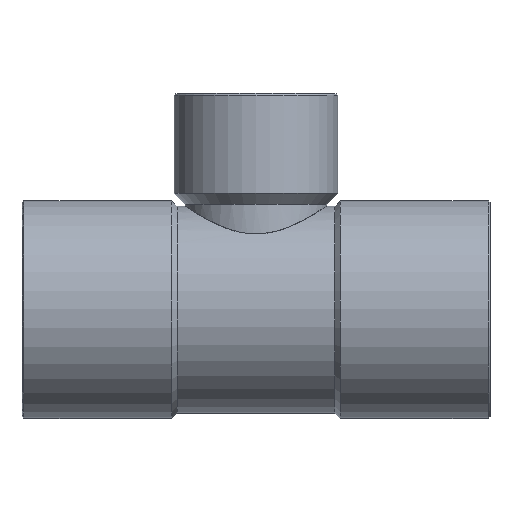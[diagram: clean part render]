
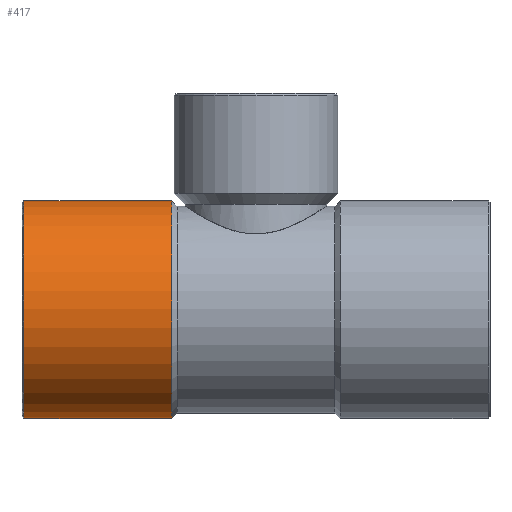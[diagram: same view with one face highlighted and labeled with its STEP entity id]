
A CAD part, top view. The second image highlights one B-rep face of the part: STEP entity #417.
In plain terms, the highlighted cylindrical face has radius 12.1 mm (diameter 24.2 mm), a partial arc.
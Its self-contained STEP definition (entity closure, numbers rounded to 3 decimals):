
#198=CARTESIAN_POINT('',(-9.375,12.1,0.0));
#199=VERTEX_POINT('',#198);
#206=CARTESIAN_POINT('',(-9.375,-12.1,0.));
#207=VERTEX_POINT('',#206);
#208=CARTESIAN_POINT('',(-9.375,0.0,0.0));
#209=DIRECTION('',(1.0,0.0,0.0));
#210=DIRECTION('',(0.0,1.0,0.0));
#211=AXIS2_PLACEMENT_3D('',#208,#209,#210);
#212=CIRCLE('',#211,12.1);
#213=EDGE_CURVE('',#199,#207,#212,.T.);
#386=CARTESIAN_POINT('',(-17.688,0.0,0.0));
#387=DIRECTION('',(1.0,0.0,0.0));
#388=DIRECTION('',(0.0,1.0,0.0));
#389=AXIS2_PLACEMENT_3D('',#386,#387,#388);
#390=CYLINDRICAL_SURFACE('',#389,12.1);
#391=CARTESIAN_POINT('',(-25.8,12.1,0.));
#392=VERTEX_POINT('',#391);
#393=CARTESIAN_POINT('',(-25.8,12.1,0.));
#394=DIRECTION('',(1.0,0.0,0.0));
#395=VECTOR('',#394,16.425);
#396=LINE('',#393,#395);
#397=EDGE_CURVE('',#392,#199,#396,.T.);
#398=ORIENTED_EDGE('',*,*,#397,.F.);
#399=CARTESIAN_POINT('',(-25.8,-12.1,0.));
#400=VERTEX_POINT('',#399);
#401=CARTESIAN_POINT('',(-25.8,0.0,0.0));
#402=DIRECTION('',(-1.0,0.0,0.0));
#403=DIRECTION('',(0.0,-1.0,0.0));
#404=AXIS2_PLACEMENT_3D('',#401,#402,#403);
#405=CIRCLE('',#404,12.1);
#406=EDGE_CURVE('',#400,#392,#405,.T.);
#407=ORIENTED_EDGE('',*,*,#406,.F.);
#408=CARTESIAN_POINT('',(-9.375,-12.1,0.));
#409=DIRECTION('',(-1.0,0.0,0.0));
#410=VECTOR('',#409,16.425);
#411=LINE('',#408,#410);
#412=EDGE_CURVE('',#207,#400,#411,.T.);
#413=ORIENTED_EDGE('',*,*,#412,.F.);
#414=ORIENTED_EDGE('',*,*,#213,.F.);
#415=EDGE_LOOP('',(#398,#407,#413,#414));
#416=FACE_OUTER_BOUND('',#415,.T.);
#417=ADVANCED_FACE('',(#416),#390,.T.);
